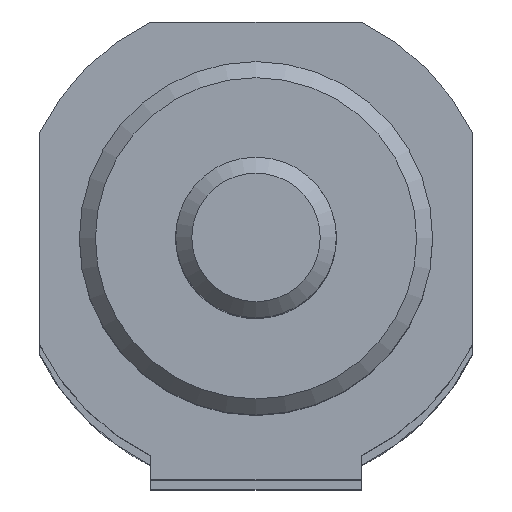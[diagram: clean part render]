
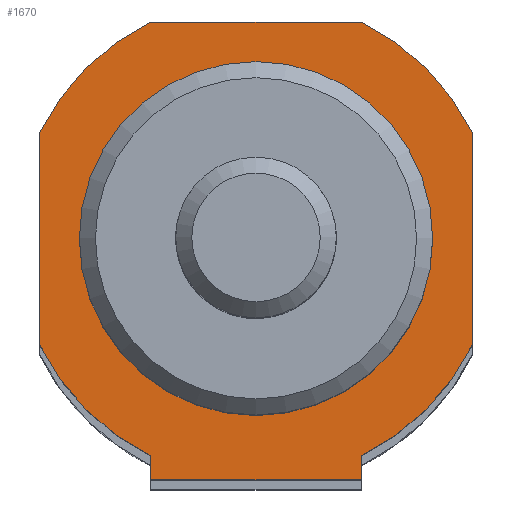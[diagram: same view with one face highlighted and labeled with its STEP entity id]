
A CAD part, top view. The second image highlights one B-rep face of the part: STEP entity #1670.
In plain terms, the highlighted planar face has unit normal (0, 0, 1).
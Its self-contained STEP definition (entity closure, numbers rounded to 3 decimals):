
#101=CARTESIAN_POINT('',(6.538,-15.,386.0));
#102=VERTEX_POINT('',#101);
#103=CARTESIAN_POINT('',(-6.538,-15.,386.0));
#104=VERTEX_POINT('',#103);
#105=CARTESIAN_POINT('',(6.538,-15.,386.0));
#106=DIRECTION('',(-1.0,0.0,0.0));
#107=VECTOR('',#106,13.077);
#108=LINE('',#105,#107);
#109=EDGE_CURVE('',#102,#104,#108,.T.);
#257=CARTESIAN_POINT('',(-6.538,-13.5,386.0));
#258=VERTEX_POINT('',#257);
#272=CARTESIAN_POINT('',(-6.538,-13.5,386.0));
#273=DIRECTION('',(0.0,-1.0,0.0));
#274=VECTOR('',#273,1.5);
#275=LINE('',#272,#274);
#276=EDGE_CURVE('',#258,#104,#275,.T.);
#288=CARTESIAN_POINT('',(6.538,-13.5,386.0));
#289=VERTEX_POINT('',#288);
#296=CARTESIAN_POINT('',(6.538,-13.5,386.0));
#297=DIRECTION('',(0.0,-1.0,0.0));
#298=VECTOR('',#297,1.5);
#299=LINE('',#296,#298);
#300=EDGE_CURVE('',#289,#102,#299,.T.);
#1398=CARTESIAN_POINT('',(11.0,0.,386.0));
#1399=VERTEX_POINT('',#1398);
#1400=CARTESIAN_POINT('',(0.0,0.0,386.0));
#1401=DIRECTION('',(0.0,0.0,-1.0));
#1402=DIRECTION('',(-1.0,0.0,0.0));
#1403=AXIS2_PLACEMENT_3D('',#1400,#1401,#1402);
#1404=CIRCLE('',#1403,11.0);
#1405=EDGE_CURVE('',#1399,#1399,#1404,.T.);
#1490=CARTESIAN_POINT('',(-6.538,13.5,386.0));
#1491=VERTEX_POINT('',#1490);
#1492=CARTESIAN_POINT('',(6.538,13.5,386.0));
#1493=VERTEX_POINT('',#1492);
#1494=CARTESIAN_POINT('',(-6.538,13.5,386.0));
#1495=DIRECTION('',(1.0,0.0,0.0));
#1496=VECTOR('',#1495,13.077);
#1497=LINE('',#1494,#1496);
#1498=EDGE_CURVE('',#1491,#1493,#1497,.T.);
#1521=CARTESIAN_POINT('',(13.5,6.538,386.0));
#1522=VERTEX_POINT('',#1521);
#1523=CARTESIAN_POINT('',(0.,0.,386.0));
#1524=DIRECTION('',(0.,0.,-1.0));
#1525=DIRECTION('',(0.9,0.436,0.));
#1526=AXIS2_PLACEMENT_3D('',#1523,#1524,#1525);
#1527=CIRCLE('',#1526,15.);
#1528=EDGE_CURVE('',#1493,#1522,#1527,.T.);
#1546=CARTESIAN_POINT('',(13.5,-6.538,386.0));
#1547=VERTEX_POINT('',#1546);
#1548=CARTESIAN_POINT('',(13.5,6.538,386.0));
#1549=DIRECTION('',(0.0,-1.0,0.0));
#1550=VECTOR('',#1549,13.077);
#1551=LINE('',#1548,#1550);
#1552=EDGE_CURVE('',#1522,#1547,#1551,.T.);
#1570=CARTESIAN_POINT('',(0.,0.,386.0));
#1571=DIRECTION('',(0.,0.,-1.0));
#1572=DIRECTION('',(0.436,-0.9,0.));
#1573=AXIS2_PLACEMENT_3D('',#1570,#1571,#1572);
#1574=CIRCLE('',#1573,15.);
#1575=EDGE_CURVE('',#1547,#289,#1574,.T.);
#1588=CARTESIAN_POINT('',(-13.5,-6.538,386.0));
#1589=VERTEX_POINT('',#1588);
#1590=CARTESIAN_POINT('',(0.,0.,386.0));
#1591=DIRECTION('',(0.,0.,-1.0));
#1592=DIRECTION('',(-0.9,-0.436,0.));
#1593=AXIS2_PLACEMENT_3D('',#1590,#1591,#1592);
#1594=CIRCLE('',#1593,15.);
#1595=EDGE_CURVE('',#258,#1589,#1594,.T.);
#1613=CARTESIAN_POINT('',(-13.5,6.538,386.0));
#1614=VERTEX_POINT('',#1613);
#1615=CARTESIAN_POINT('',(-13.5,-6.538,386.0));
#1616=DIRECTION('',(0.0,1.0,0.0));
#1617=VECTOR('',#1616,13.077);
#1618=LINE('',#1615,#1617);
#1619=EDGE_CURVE('',#1589,#1614,#1618,.T.);
#1637=CARTESIAN_POINT('',(0.,0.,386.0));
#1638=DIRECTION('',(0.,0.,-1.0));
#1639=DIRECTION('',(-0.436,0.9,0.));
#1640=AXIS2_PLACEMENT_3D('',#1637,#1638,#1639);
#1641=CIRCLE('',#1640,15.);
#1642=EDGE_CURVE('',#1614,#1491,#1641,.T.);
#1650=CARTESIAN_POINT('',(0.,0.0,386.0));
#1651=DIRECTION('',(0.0,0.0,1.0));
#1652=DIRECTION('',(1.0,0.0,0.0));
#1653=AXIS2_PLACEMENT_3D('',#1650,#1651,#1652);
#1654=PLANE('',#1653);
#1655=ORIENTED_EDGE('',*,*,#1498,.F.);
#1656=ORIENTED_EDGE('',*,*,#1642,.F.);
#1657=ORIENTED_EDGE('',*,*,#1619,.F.);
#1658=ORIENTED_EDGE('',*,*,#1595,.F.);
#1659=ORIENTED_EDGE('',*,*,#276,.T.);
#1660=ORIENTED_EDGE('',*,*,#109,.F.);
#1661=ORIENTED_EDGE('',*,*,#300,.F.);
#1662=ORIENTED_EDGE('',*,*,#1575,.F.);
#1663=ORIENTED_EDGE('',*,*,#1552,.F.);
#1664=ORIENTED_EDGE('',*,*,#1528,.F.);
#1665=EDGE_LOOP('',(#1655,#1656,#1657,#1658,#1659,#1660,#1661,#1662,#1663,#1664));
#1666=FACE_OUTER_BOUND('',#1665,.T.);
#1667=ORIENTED_EDGE('',*,*,#1405,.T.);
#1668=EDGE_LOOP('',(#1667));
#1669=FACE_BOUND('',#1668,.T.);
#1670=ADVANCED_FACE('',(#1666,#1669),#1654,.T.);
